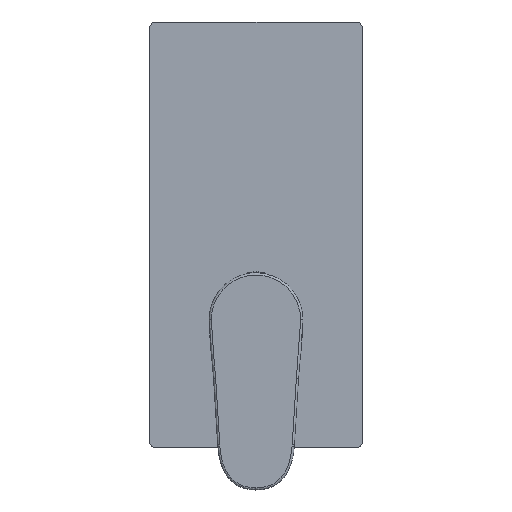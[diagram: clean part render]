
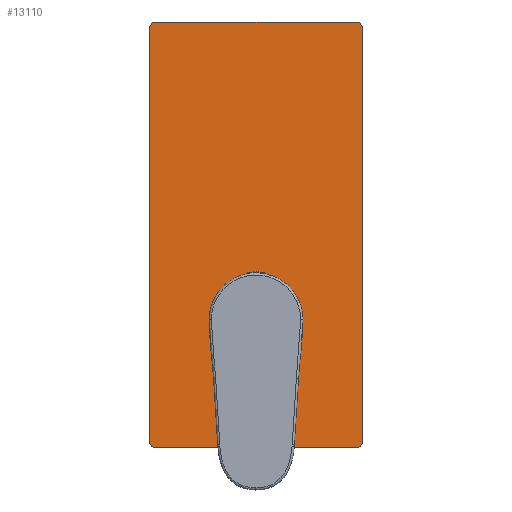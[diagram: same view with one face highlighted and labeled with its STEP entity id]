
A CAD part, top view. The second image highlights one B-rep face of the part: STEP entity #13110.
In plain terms, the highlighted planar face has unit normal (0, 0, 1).
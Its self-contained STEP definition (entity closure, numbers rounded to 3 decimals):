
#206 = EDGE_CURVE ( 'NONE', #9679, #5493, #7874, .T. ) ;
#431 = DIRECTION ( 'NONE',  ( 1., 0., 0. ) ) ;
#610 = ORIENTED_EDGE ( 'NONE', *, *, #3933, .T. ) ;
#668 = VECTOR ( 'NONE', #5618, 1000. ) ;
#1351 = ORIENTED_EDGE ( 'NONE', *, *, #6594, .T. ) ;
#1416 = CARTESIAN_POINT ( 'NONE',  ( -97., -47., 2. ) ) ;
#1485 = VERTEX_POINT ( 'NONE', #12657 ) ;
#1544 = DIRECTION ( 'NONE',  ( 0., 0., 1. ) ) ;
#1683 = DIRECTION ( 'NONE',  ( 1., 0., 0. ) ) ;
#1750 = CARTESIAN_POINT ( 'NONE',  ( 100., -47., 2. ) ) ;
#1914 = CARTESIAN_POINT ( 'NONE',  ( -100., 47., 2. ) ) ;
#2220 = CIRCLE ( 'NONE', #11490, 3. ) ;
#2329 = AXIS2_PLACEMENT_3D ( 'NONE', #10701, #12034, #15844 ) ;
#2535 = EDGE_LOOP ( 'NONE', ( #5202, #6668 ) ) ;
#2589 = CARTESIAN_POINT ( 'NONE',  ( -100., -50., 2. ) ) ;
#2832 = AXIS2_PLACEMENT_3D ( 'NONE', #8507, #4767, #8422 ) ;
#2887 = CARTESIAN_POINT ( 'NONE',  ( 0., 0., 2. ) ) ;
#2958 = CARTESIAN_POINT ( 'NONE',  ( -60.7, 0., 2. ) ) ;
#3049 = ORIENTED_EDGE ( 'NONE', *, *, #6152, .T. ) ;
#3720 = VECTOR ( 'NONE', #14031, 1000. ) ;
#3933 = EDGE_CURVE ( 'NONE', #1485, #6338, #5797, .T. ) ;
#4172 = CARTESIAN_POINT ( 'NONE',  ( -40., 0., 2. ) ) ;
#4509 = CARTESIAN_POINT ( 'NONE',  ( 97., -50., 2. ) ) ;
#4767 = DIRECTION ( 'NONE',  ( 0., 0., 1. ) ) ;
#5008 = EDGE_CURVE ( 'NONE', #15101, #7714, #13671, .T. ) ;
#5086 = DIRECTION ( 'NONE',  ( 1., 0., 0. ) ) ;
#5202 = ORIENTED_EDGE ( 'NONE', *, *, #8160, .F. ) ;
#5211 = CARTESIAN_POINT ( 'NONE',  ( 97., 47., 2. ) ) ;
#5344 = EDGE_CURVE ( 'NONE', #13023, #5982, #12636, .T. ) ;
#5493 = VERTEX_POINT ( 'NONE', #1750 ) ;
#5502 = AXIS2_PLACEMENT_3D ( 'NONE', #1416, #11382, #5086 ) ;
#5618 = DIRECTION ( 'NONE',  ( -1., 0., 0. ) ) ;
#5689 = LINE ( 'NONE', #6701, #12333 ) ;
#5755 = AXIS2_PLACEMENT_3D ( 'NONE', #12057, #9325, #14539 ) ;
#5782 = EDGE_CURVE ( 'NONE', #5982, #9679, #5689, .T. ) ;
#5797 = CIRCLE ( 'NONE', #2329, 3. ) ;
#5982 = VERTEX_POINT ( 'NONE', #10894 ) ;
#6076 = CIRCLE ( 'NONE', #13210, 20.7 ) ;
#6152 = EDGE_CURVE ( 'NONE', #6338, #13023, #8886, .T. ) ;
#6338 = VERTEX_POINT ( 'NONE', #1914 ) ;
#6594 = EDGE_CURVE ( 'NONE', #5493, #16076, #11355, .T. ) ;
#6668 = ORIENTED_EDGE ( 'NONE', *, *, #5008, .F. ) ;
#6701 = CARTESIAN_POINT ( 'NONE',  ( 100., -50., 2. ) ) ;
#6800 = DIRECTION ( 'NONE',  ( 1., 0., 0. ) ) ;
#6921 = VECTOR ( 'NONE', #10107, 1000. ) ;
#7059 = AXIS2_PLACEMENT_3D ( 'NONE', #2887, #9027, #12838 ) ;
#7126 = EDGE_LOOP ( 'NONE', ( #15215, #610, #3049, #10449, #10308, #8946, #1351, #11430 ) ) ;
#7398 = VERTEX_POINT ( 'NONE', #9209 ) ;
#7714 = VERTEX_POINT ( 'NONE', #2958 ) ;
#7874 = CIRCLE ( 'NONE', #2832, 3. ) ;
#8000 = DIRECTION ( 'NONE',  ( 0., 0., 1. ) ) ;
#8160 = EDGE_CURVE ( 'NONE', #7714, #15101, #6076, .T. ) ;
#8422 = DIRECTION ( 'NONE',  ( 1., 0., 0. ) ) ;
#8507 = CARTESIAN_POINT ( 'NONE',  ( 97., -47., 2. ) ) ;
#8886 = LINE ( 'NONE', #2589, #3720 ) ;
#8946 = ORIENTED_EDGE ( 'NONE', *, *, #206, .T. ) ;
#9027 = DIRECTION ( 'NONE',  ( 0., 0., 1. ) ) ;
#9209 = CARTESIAN_POINT ( 'NONE',  ( 97., 50., 2. ) ) ;
#9325 = DIRECTION ( 'NONE',  ( 0., 0., 1. ) ) ;
#9679 = VERTEX_POINT ( 'NONE', #4509 ) ;
#10107 = DIRECTION ( 'NONE',  ( 0., 1., 0. ) ) ;
#10308 = ORIENTED_EDGE ( 'NONE', *, *, #5782, .T. ) ;
#10449 = ORIENTED_EDGE ( 'NONE', *, *, #5344, .T. ) ;
#10701 = CARTESIAN_POINT ( 'NONE',  ( -97., 47., 2. ) ) ;
#10734 = LINE ( 'NONE', #12230, #668 ) ;
#10894 = CARTESIAN_POINT ( 'NONE',  ( -97., -50., 2. ) ) ;
#11355 = LINE ( 'NONE', #11441, #6921 ) ;
#11382 = DIRECTION ( 'NONE',  ( 0., 0., 1. ) ) ;
#11430 = ORIENTED_EDGE ( 'NONE', *, *, #15809, .T. ) ;
#11441 = CARTESIAN_POINT ( 'NONE',  ( 100., -50., 2. ) ) ;
#11490 = AXIS2_PLACEMENT_3D ( 'NONE', #5211, #1544, #6800 ) ;
#12034 = DIRECTION ( 'NONE',  ( 0., 0., 1. ) ) ;
#12057 = CARTESIAN_POINT ( 'NONE',  ( -40., 0., 2. ) ) ;
#12230 = CARTESIAN_POINT ( 'NONE',  ( 100., 50., 2. ) ) ;
#12333 = VECTOR ( 'NONE', #1683, 1000. ) ;
#12636 = CIRCLE ( 'NONE', #5502, 3. ) ;
#12657 = CARTESIAN_POINT ( 'NONE',  ( -97., 50., 2. ) ) ;
#12838 = DIRECTION ( 'NONE',  ( 1., 0., 0. ) ) ;
#13023 = VERTEX_POINT ( 'NONE', #15068 ) ;
#13078 = FACE_BOUND ( 'NONE', #2535, .T. ) ;
#13110 = ADVANCED_FACE ( 'NONE', ( #15320, #13078 ), #14244, .T. ) ;
#13210 = AXIS2_PLACEMENT_3D ( 'NONE', #4172, #8000, #431 ) ;
#13468 = EDGE_CURVE ( 'NONE', #7398, #1485, #10734, .T. ) ;
#13671 = CIRCLE ( 'NONE', #5755, 20.7 ) ;
#13779 = CARTESIAN_POINT ( 'NONE',  ( -19.3, 0., 2. ) ) ;
#14031 = DIRECTION ( 'NONE',  ( 0., -1., 0. ) ) ;
#14244 = PLANE ( 'NONE',  #7059 ) ;
#14539 = DIRECTION ( 'NONE',  ( 1., 0., 0. ) ) ;
#15068 = CARTESIAN_POINT ( 'NONE',  ( -100., -47., 2. ) ) ;
#15101 = VERTEX_POINT ( 'NONE', #13779 ) ;
#15215 = ORIENTED_EDGE ( 'NONE', *, *, #13468, .T. ) ;
#15320 = FACE_OUTER_BOUND ( 'NONE', #7126, .T. ) ;
#15809 = EDGE_CURVE ( 'NONE', #16076, #7398, #2220, .T. ) ;
#15844 = DIRECTION ( 'NONE',  ( 1., 0., 0. ) ) ;
#15888 = CARTESIAN_POINT ( 'NONE',  ( 100., 47., 2. ) ) ;
#16076 = VERTEX_POINT ( 'NONE', #15888 ) ;
